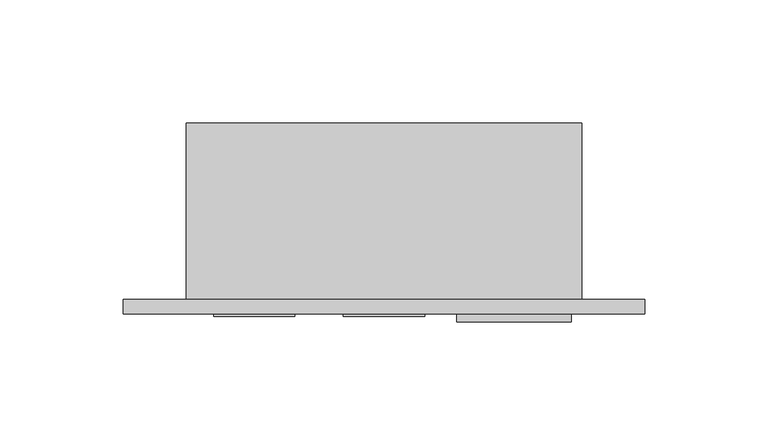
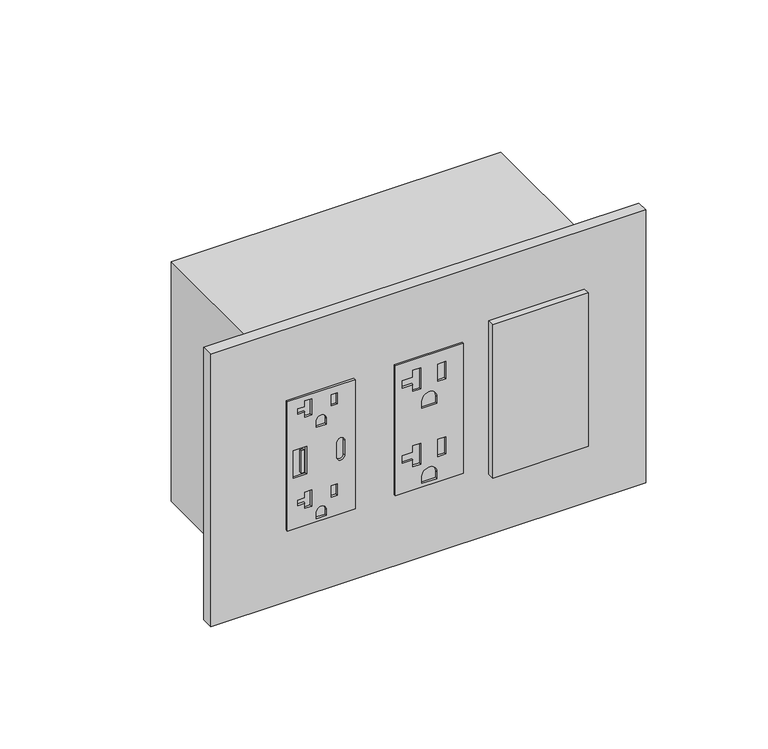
"""IFC4 building model written with IfcOpenShell, lengths in millimetres: proxy geometry, Electrical-Teknion-EPDMT_Vertical_Power_Data_Triple-R2019 : PD Vertical Module - Triple 20 Amp USB (A+C) & 20 Amp Standard."""

from ifc_helpers import new_model, si_unit, point, frame, frame_2d, origin, place, context, project, spatial, polyline, circle_curve, trimmed, segment, composite_curve, outline, extrude, source, transform, mapped, element, save


def electrical_fixtures_cc8c5b9d(model_context):
    return source(origin(), model_context, "Body", "SweptSolid", [
        extrude(outline(polyline([(414.274, 11.0998), (347.726, 11.0998), (347.726, 44.0944), (414.274, 44.0944), (414.274, 11.0998)]), holes=[polyline([(388.0485, 14.0236066), (388.0485, 20.5246617), (373.9515, 20.5246617), (373.9515, 14.0236066), (388.0485, 14.0236066)]), composite_curve([segment(trimmed(circle_curve(frame_2d((384.7846, 37.1348)), 1.905), [point((384.7846, 35.2298))], [point((384.7846, 39.0398))], True, "CARTESIAN"), True, "CONTINUOUS"), segment(polyline([(384.7846, 39.0398), (377.2154, 39.0398)]), True, "CONTINUOUS"), segment(trimmed(circle_curve(frame_2d((377.2154, 37.1348)), 1.905), [point((377.2154, 39.0398))], [point((377.2154, 35.2298))], True, "CARTESIAN"), True, "CONTINUOUS"), segment(polyline([(377.2154, 35.2298), (384.7846, 35.2298)]), True, "CONTINUOUS")], self_intersect=False), composite_curve([segment(polyline([(349.25, 30.0609), (349.25, 25.1333), (352.3488, 25.1333)]), True, "CONTINUOUS"), segment(trimmed(circle_curve(frame_2d((352.3488, 27.5971)), 2.4638), [point((352.3488, 25.1333))], [point((352.3488, 30.0609))], True, "CARTESIAN"), True, "CONTINUOUS"), segment(polyline([(352.3488, 30.0609), (349.25, 30.0609)]), True, "CONTINUOUS")], self_intersect=False), polyline([(364.8202, 22.9616), (356.5211661, 22.9616), (356.5211661, 19.6342), (359.2043639, 19.6342), (359.2043639, 16.1036), (361.9419812, 16.1036), (361.9419812, 19.6342), (364.8202, 19.6342), (364.8202, 22.9616)]), composite_curve([segment(polyline([(396.24, 25.1333), (399.3388, 25.1333)]), True, "CONTINUOUS"), segment(trimmed(circle_curve(frame_2d((399.3388, 27.5971)), 2.4638), [point((399.3388, 25.1333))], [point((399.3388, 30.0609))], True, "CARTESIAN"), True, "CONTINUOUS"), segment(polyline([(399.3388, 30.0609), (396.24, 30.0609), (396.24, 25.1333)]), True, "CONTINUOUS")], self_intersect=False), polyline([(404.7574649, 32.4358), (410.5806175, 32.4358), (410.5806175, 35.41014), (404.7574649, 35.41014), (404.7574649, 32.4358)]), polyline([(357.7674649, 32.4358), (363.5906175, 32.4358), (363.5906175, 35.41014), (357.7674649, 35.41014), (357.7674649, 32.4358)]), polyline([(411.8102, 22.9616), (403.5111661, 22.9616), (403.5111661, 19.6342), (406.1943639, 19.6342), (406.1943639, 16.1036), (408.9319812, 16.1036), (408.9319812, 19.6342), (411.8102, 19.6342), (411.8102, 22.9616)])]), frame((0.0, -6.9294746, 0.0), z_axis=(0.0, 1.0, 0.0), x_axis=(0.0, 0.0, 1.0)), (0.0, 0.0, 1.0), 1.0366746),
        extrude(outline(polyline([(19.314835, -6.9294746), (17.7939058, -6.9294746), (17.7939058, -5.8928), (19.314835, -5.8928), (19.314835, -6.9294746)])), frame((0.0, 0.0, 375.2741546), z_axis=(0.0, 0.0, 1.0), x_axis=(1.0, 0.0, 0.0)), (0.0, 0.0, 1.0), 11.4436352),
        extrude(outline(polyline([(414.4772, 96.7613), (414.4772, 63.7667), (347.5228, 63.7667), (347.5228, 96.7613), (414.4772, 96.7613)]), holes=[polyline([(409.0924, 76.1111), (398.272, 76.1111), (398.272, 72.2757), (401.7518, 72.2757), (401.7518, 67.1703), (405.6126, 67.1703), (405.6126, 72.2757), (409.0924, 72.2757), (409.0924, 76.1111)]), polyline([(408.1145, 88.2777), (399.2499, 88.2777), (399.2499, 84.4423), (408.1145, 84.4423), (408.1145, 88.2777)]), composite_curve([segment(polyline([(388.0866, 83.8962), (388.0866, 76.6318), (391.7188, 76.6318)]), True, "CONTINUOUS"), segment(trimmed(circle_curve(frame_2d((391.7188, 80.264)), 3.6322), [point((391.7188, 76.6318))], [point((391.7188, 83.8962))], True, "CARTESIAN"), True, "CONTINUOUS"), segment(polyline([(391.7188, 83.8962), (388.0866, 83.8962)]), True, "CONTINUOUS")], self_intersect=False), polyline([(370.3574, 76.1111), (359.537, 76.1111), (359.537, 72.2757), (363.0168, 72.2757), (363.0168, 67.1703), (366.8776, 67.1703), (366.8776, 72.2757), (370.3574, 72.2757), (370.3574, 76.1111)]), polyline([(369.3795, 88.2777), (360.5149, 88.2777), (360.5149, 84.4423), (369.3795, 84.4423), (369.3795, 88.2777)]), composite_curve([segment(polyline([(349.3516, 83.8962), (349.3516, 76.6318), (352.9838, 76.6318)]), True, "CONTINUOUS"), segment(trimmed(circle_curve(frame_2d((352.9838, 80.264)), 3.6322), [point((352.9838, 76.6318))], [point((352.9838, 83.8962))], True, "CARTESIAN"), True, "CONTINUOUS"), segment(polyline([(352.9838, 83.8962), (349.3516, 83.8962)]), True, "CONTINUOUS")], self_intersect=False)]), frame((0.0, -6.9294746, 0.0), z_axis=(0.0, 1.0, 0.0), x_axis=(0.0, 0.0, 1.0)), (0.0, 0.0, 1.0), 1.0366746),
        extrude(outline(polyline([(109.8296, -5.8928), (156.3624, -5.8928), (156.3624, -9.0678), (109.8296, -9.0678), (109.8296, -5.8928)])), frame((0.0, 0.0, 341.7922742), z_axis=(0.0, 0.0, 1.0), x_axis=(1.0, 0.0, 0.0)), (0.0, 0.0, 1.0), 79.0448),
        extrude(outline(polyline([(-25.6794, 0.0), (186.2074, 0.0), (186.2074, -5.8928), (-25.6794, -5.8928), (-25.6794, 0.0)])), frame((0.0, 0.0, 310.8198), z_axis=(0.0, 0.0, 1.0), x_axis=(1.0, 0.0, 0.0)), (0.0, 0.0, 1.0), 140.3604),
        extrude(outline(polyline([(160.528, 0.0), (0.0, 0.0), (0.0, 71.7296), (160.528, 71.7296), (160.528, 0.0)])), frame((0.0, 0.0, 319.2526), z_axis=(0.0, 0.0, 1.0), x_axis=(1.0, 0.0, 0.0)), (0.0, 0.0, 1.0), 123.4948),
    ])


if __name__ == "__main__":
    model = new_model("IFC4")
    model_context = context("Model", 3, world=origin())
    ifc_project = project(units=[si_unit("LENGTHUNIT", "METRE", prefix="MILLI")], contexts=[model_context])
    site = spatial("IfcSite", under=ifc_project)
    building = spatial("IfcBuilding", under=site)
    placement = place(None, origin())
    electrical_fixtures_shape = electrical_fixtures_cc8c5b9d(model_context)
    element("IfcBuildingElementProxy", 1, Name="Electrical-Teknion-EPDMT_Vertical_Power_Data_Triple-R2019 : PD Vertical Module - Triple 20 Amp USB (A+C) & 20 Amp Standard", ObjectType="Electrical-Teknion-EPDMT_Vertical_Power_Data_Triple-R2019 : PD Vertical Module - Triple 20 Amp USB (A+C) & 20 Amp Standard", at=placement, inside=building, context=model_context, shape_type="MappedRepresentation", body=[
        mapped(electrical_fixtures_shape, transform((0.0, 0.0, 0.0), x_axis=(1.0, 0.0, 0.0), y_axis=(0.0, 1.0, 0.0), z_axis=(0.0, 0.0, 1.0))),
    ])
    save(model, "model.ifc")
